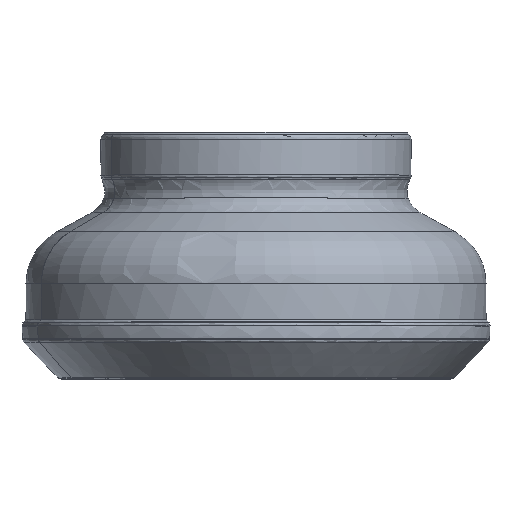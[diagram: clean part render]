
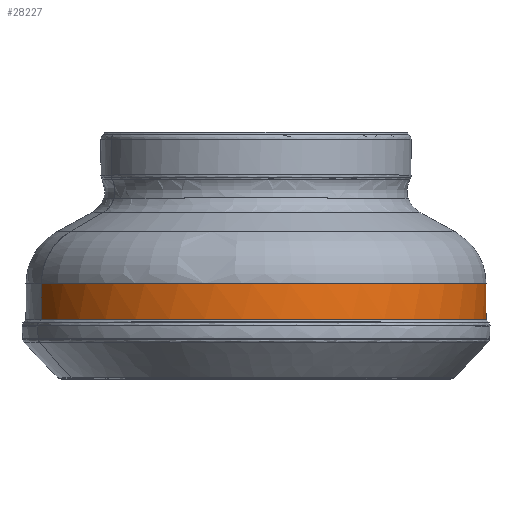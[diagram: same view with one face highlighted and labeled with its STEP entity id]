
A CAD part, top view. The second image highlights one B-rep face of the part: STEP entity #28227.
In plain terms, the highlighted cylindrical face has radius 46.7 mm (diameter 93.4 mm), a partial arc.
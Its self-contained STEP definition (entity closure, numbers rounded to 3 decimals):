
#28227 = ADVANCED_FACE('',(#28228),#28243,.T.);
#28228 = FACE_BOUND('',#28229,.T.);
#28229 = EDGE_LOOP('',(#28230,#28255,#28306,#28322));
#28230 = ORIENTED_EDGE('',*,*,#28231,.T.);
#28231 = EDGE_CURVE('',#28232,#28234,#28236,.T.);
#28232 = VERTEX_POINT('',#28233);
#28233 = CARTESIAN_POINT('',(43.569,12.044,
    -16.813));
#28234 = VERTEX_POINT('',#28235);
#28235 = CARTESIAN_POINT('',(43.569,19.336,
    -16.813));
#28236 = SURFACE_CURVE('',#28237,(#28242),.PCURVE_S1.);
#28237 = B_SPLINE_CURVE_WITH_KNOTS('',3,(#28238,#28239,#28240,#28241),
  .UNSPECIFIED.,.F.,.F.,(4,4),(0.,1.),.PIECEWISE_BEZIER_KNOTS.);
#28238 = CARTESIAN_POINT('',(43.569,12.044,
    -16.813));
#28239 = CARTESIAN_POINT('',(43.569,16.905,
    -16.813));
#28240 = CARTESIAN_POINT('',(43.569,14.475,
    -16.813));
#28241 = CARTESIAN_POINT('',(43.569,19.336,
    -16.813));
#28242 = PCURVE('',#28243,#28248);
#28243 = CYLINDRICAL_SURFACE('',#28244,46.7);
#28244 = AXIS2_PLACEMENT_3D('',#28245,#28246,#28247);
#28245 = CARTESIAN_POINT('',(0.,11.858,0.));
#28246 = DIRECTION('',(0.,1.,0.));
#28247 = DIRECTION('',(-0.36,0.,-0.933));
#28248 = DEFINITIONAL_REPRESENTATION('',(#28249),#28254);
#28249 = B_SPLINE_CURVE_WITH_KNOTS('',3,(#28250,#28251,#28252,#28253),
  .UNSPECIFIED.,.F.,.F.,(4,4),(0.,1.),.PIECEWISE_BEZIER_KNOTS.);
#28250 = CARTESIAN_POINT('',(4.712,0.187));
#28251 = CARTESIAN_POINT('',(4.712,5.048));
#28252 = CARTESIAN_POINT('',(4.712,2.617));
#28253 = CARTESIAN_POINT('',(4.712,7.478));
#28254 = ( GEOMETRIC_REPRESENTATION_CONTEXT(2) 
PARAMETRIC_REPRESENTATION_CONTEXT() REPRESENTATION_CONTEXT('2D SPACE',''
  ) );
#28255 = ORIENTED_EDGE('',*,*,#28256,.T.);
#28256 = EDGE_CURVE('',#28234,#28257,#28259,.T.);
#28257 = VERTEX_POINT('',#28258);
#28258 = CARTESIAN_POINT('',(-43.569,19.336,
    16.813));
#28259 = SURFACE_CURVE('',#28260,(#28271),.PCURVE_S1.);
#28260 = B_SPLINE_CURVE_WITH_KNOTS('',9,(#28261,#28262,#28263,#28264,
    #28265,#28266,#28267,#28268,#28269,#28270),.UNSPECIFIED.,.F.,.F.,(10
    ,10),(0.,1.),.PIECEWISE_BEZIER_KNOTS.);
#28261 = CARTESIAN_POINT('',(43.569,19.336,
    -16.813));
#28262 = CARTESIAN_POINT('',(49.437,19.336,
    -1.605));
#28263 = CARTESIAN_POINT('',(49.334,19.336,
    15.909));
#28264 = CARTESIAN_POINT('',(42.223,19.336,
    33.045));
#28265 = CARTESIAN_POINT('',(28.478,19.336,
    46.588));
#28266 = CARTESIAN_POINT('',(10.2,19.336,
    53.641));
#28267 = CARTESIAN_POINT('',(-9.08,19.336,
    52.842));
#28268 = CARTESIAN_POINT('',(-25.859,19.336,
    44.925));
#28269 = CARTESIAN_POINT('',(-37.7,19.336,
    32.021));
#28270 = CARTESIAN_POINT('',(-43.569,19.336,
    16.813));
#28271 = PCURVE('',#28243,#28272);
#28272 = DEFINITIONAL_REPRESENTATION('',(#28273),#28305);
#28273 = B_SPLINE_CURVE_WITH_KNOTS('',3,(#28274,#28275,#28276,#28277,
    #28278,#28279,#28280,#28281,#28282,#28283,#28284,#28285,#28286,
    #28287,#28288,#28289,#28290,#28291,#28292,#28293,#28294,#28295,
    #28296,#28297,#28298,#28299,#28300,#28301,#28302,#28303,#28304),
  .UNSPECIFIED.,.F.,.F.,(4,3,3,3,3,3,3,3,3,3,4),(0.,0.1,0.2,0.3,0.4,0.5,
    0.6,0.7,0.8,0.9,1.),.UNSPECIFIED.);
#28274 = CARTESIAN_POINT('',(4.712,7.478));
#28275 = CARTESIAN_POINT('',(4.608,7.478));
#28276 = CARTESIAN_POINT('',(4.503,7.478));
#28277 = CARTESIAN_POINT('',(4.398,7.478));
#28278 = CARTESIAN_POINT('',(4.294,7.478));
#28279 = CARTESIAN_POINT('',(4.189,7.478));
#28280 = CARTESIAN_POINT('',(4.084,7.478));
#28281 = CARTESIAN_POINT('',(3.979,7.478));
#28282 = CARTESIAN_POINT('',(3.875,7.478));
#28283 = CARTESIAN_POINT('',(3.77,7.478));
#28284 = CARTESIAN_POINT('',(3.665,7.478));
#28285 = CARTESIAN_POINT('',(3.56,7.478));
#28286 = CARTESIAN_POINT('',(3.456,7.478));
#28287 = CARTESIAN_POINT('',(3.351,7.478));
#28288 = CARTESIAN_POINT('',(3.246,7.478));
#28289 = CARTESIAN_POINT('',(3.142,7.478));
#28290 = CARTESIAN_POINT('',(3.037,7.478));
#28291 = CARTESIAN_POINT('',(2.932,7.478));
#28292 = CARTESIAN_POINT('',(2.827,7.478));
#28293 = CARTESIAN_POINT('',(2.723,7.478));
#28294 = CARTESIAN_POINT('',(2.618,7.478));
#28295 = CARTESIAN_POINT('',(2.513,7.478));
#28296 = CARTESIAN_POINT('',(2.409,7.478));
#28297 = CARTESIAN_POINT('',(2.304,7.478));
#28298 = CARTESIAN_POINT('',(2.199,7.478));
#28299 = CARTESIAN_POINT('',(2.094,7.478));
#28300 = CARTESIAN_POINT('',(1.99,7.478));
#28301 = CARTESIAN_POINT('',(1.885,7.478));
#28302 = CARTESIAN_POINT('',(1.78,7.478));
#28303 = CARTESIAN_POINT('',(1.676,7.478));
#28304 = CARTESIAN_POINT('',(1.571,7.478));
#28305 = ( GEOMETRIC_REPRESENTATION_CONTEXT(2) 
PARAMETRIC_REPRESENTATION_CONTEXT() REPRESENTATION_CONTEXT('2D SPACE',''
  ) );
#28306 = ORIENTED_EDGE('',*,*,#28307,.T.);
#28307 = EDGE_CURVE('',#28257,#28308,#28310,.T.);
#28308 = VERTEX_POINT('',#28309);
#28309 = CARTESIAN_POINT('',(-43.569,12.044,
    16.813));
#28310 = SURFACE_CURVE('',#28311,(#28314),.PCURVE_S1.);
#28311 = B_SPLINE_CURVE_WITH_KNOTS('',1,(#28312,#28313),.UNSPECIFIED.,
  .F.,.F.,(2,2),(0.,1.),.PIECEWISE_BEZIER_KNOTS.);
#28312 = CARTESIAN_POINT('',(-43.569,19.336,
    16.813));
#28313 = CARTESIAN_POINT('',(-43.569,12.044,
    16.813));
#28314 = PCURVE('',#28243,#28315);
#28315 = DEFINITIONAL_REPRESENTATION('',(#28316),#28321);
#28316 = B_SPLINE_CURVE_WITH_KNOTS('',3,(#28317,#28318,#28319,#28320),
  .UNSPECIFIED.,.F.,.F.,(4,4),(0.,1.),.PIECEWISE_BEZIER_KNOTS.);
#28317 = CARTESIAN_POINT('',(1.571,7.478));
#28318 = CARTESIAN_POINT('',(1.571,5.048));
#28319 = CARTESIAN_POINT('',(1.571,2.617));
#28320 = CARTESIAN_POINT('',(1.571,0.187));
#28321 = ( GEOMETRIC_REPRESENTATION_CONTEXT(2) 
PARAMETRIC_REPRESENTATION_CONTEXT() REPRESENTATION_CONTEXT('2D SPACE',''
  ) );
#28322 = ORIENTED_EDGE('',*,*,#28323,.T.);
#28323 = EDGE_CURVE('',#28308,#28232,#28324,.T.);
#28324 = SURFACE_CURVE('',#28325,(#28336),.PCURVE_S1.);
#28325 = B_SPLINE_CURVE_WITH_KNOTS('',9,(#28326,#28327,#28328,#28329,
    #28330,#28331,#28332,#28333,#28334,#28335),.UNSPECIFIED.,.F.,.F.,(10
    ,10),(0.,1.),.PIECEWISE_BEZIER_KNOTS.);
#28326 = CARTESIAN_POINT('',(-43.569,12.044,
    16.813));
#28327 = CARTESIAN_POINT('',(-37.7,12.044,
    32.021));
#28328 = CARTESIAN_POINT('',(-25.859,12.044,
    44.925));
#28329 = CARTESIAN_POINT('',(-9.08,12.044,
    52.842));
#28330 = CARTESIAN_POINT('',(10.2,12.044,
    53.641));
#28331 = CARTESIAN_POINT('',(28.478,12.044,
    46.588));
#28332 = CARTESIAN_POINT('',(42.223,12.044,
    33.045));
#28333 = CARTESIAN_POINT('',(49.334,12.044,
    15.909));
#28334 = CARTESIAN_POINT('',(49.437,12.044,
    -1.605));
#28335 = CARTESIAN_POINT('',(43.569,12.044,
    -16.813));
#28336 = PCURVE('',#28243,#28337);
#28337 = DEFINITIONAL_REPRESENTATION('',(#28338),#28370);
#28338 = B_SPLINE_CURVE_WITH_KNOTS('',3,(#28339,#28340,#28341,#28342,
    #28343,#28344,#28345,#28346,#28347,#28348,#28349,#28350,#28351,
    #28352,#28353,#28354,#28355,#28356,#28357,#28358,#28359,#28360,
    #28361,#28362,#28363,#28364,#28365,#28366,#28367,#28368,#28369),
  .UNSPECIFIED.,.F.,.F.,(4,3,3,3,3,3,3,3,3,3,4),(0.,0.1,
    0.2,0.3,0.4,0.5,
    0.6,0.7,0.8,0.9,1.),
  .UNSPECIFIED.);
#28339 = CARTESIAN_POINT('',(1.571,0.187));
#28340 = CARTESIAN_POINT('',(1.676,0.187));
#28341 = CARTESIAN_POINT('',(1.78,0.187));
#28342 = CARTESIAN_POINT('',(1.885,0.187));
#28343 = CARTESIAN_POINT('',(1.99,0.187));
#28344 = CARTESIAN_POINT('',(2.094,0.187));
#28345 = CARTESIAN_POINT('',(2.199,0.187));
#28346 = CARTESIAN_POINT('',(2.304,0.187));
#28347 = CARTESIAN_POINT('',(2.409,0.187));
#28348 = CARTESIAN_POINT('',(2.513,0.187));
#28349 = CARTESIAN_POINT('',(2.618,0.187));
#28350 = CARTESIAN_POINT('',(2.723,0.187));
#28351 = CARTESIAN_POINT('',(2.827,0.187));
#28352 = CARTESIAN_POINT('',(2.932,0.187));
#28353 = CARTESIAN_POINT('',(3.037,0.187));
#28354 = CARTESIAN_POINT('',(3.142,0.187));
#28355 = CARTESIAN_POINT('',(3.246,0.187));
#28356 = CARTESIAN_POINT('',(3.351,0.187));
#28357 = CARTESIAN_POINT('',(3.456,0.187));
#28358 = CARTESIAN_POINT('',(3.56,0.187));
#28359 = CARTESIAN_POINT('',(3.665,0.187));
#28360 = CARTESIAN_POINT('',(3.77,0.187));
#28361 = CARTESIAN_POINT('',(3.875,0.187));
#28362 = CARTESIAN_POINT('',(3.979,0.187));
#28363 = CARTESIAN_POINT('',(4.084,0.187));
#28364 = CARTESIAN_POINT('',(4.189,0.187));
#28365 = CARTESIAN_POINT('',(4.294,0.187));
#28366 = CARTESIAN_POINT('',(4.398,0.187));
#28367 = CARTESIAN_POINT('',(4.503,0.187));
#28368 = CARTESIAN_POINT('',(4.608,0.187));
#28369 = CARTESIAN_POINT('',(4.712,0.187));
#28370 = ( GEOMETRIC_REPRESENTATION_CONTEXT(2) 
PARAMETRIC_REPRESENTATION_CONTEXT() REPRESENTATION_CONTEXT('2D SPACE',''
  ) );
